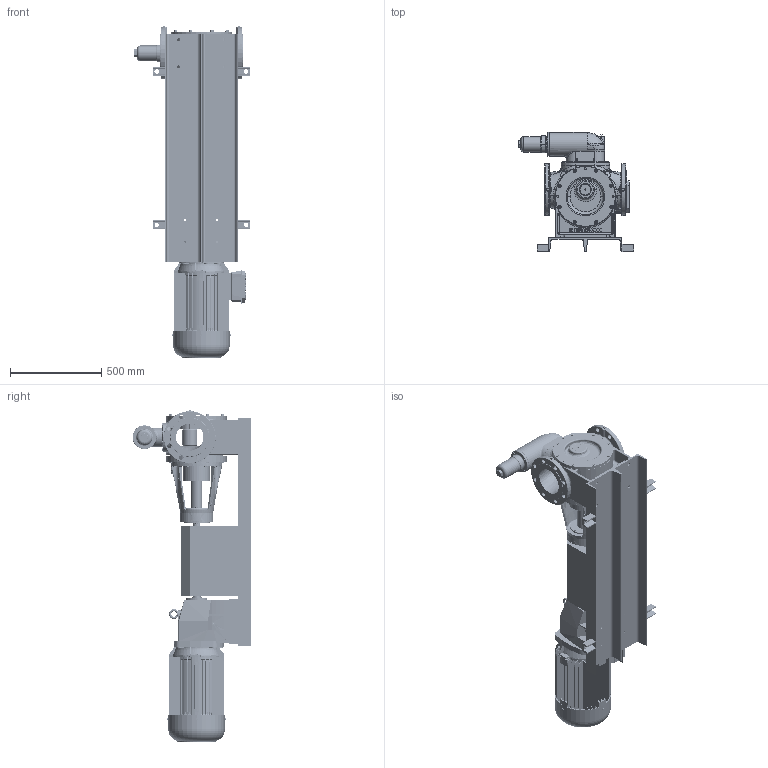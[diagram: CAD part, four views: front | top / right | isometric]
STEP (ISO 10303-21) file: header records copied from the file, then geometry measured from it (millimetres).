
FILE_DESCRIPTION((''),'2;1');
FILE_NAME('PD151EM-USA-KA402609_ASM','2020-06-01T',('heqi'),(''),'PRO/ENGINEER BY PARAMETRIC TECHNOLOGY CORPORATION, 2017170','PRO/ENGINEER BY PARAMETRIC TECHNOLOGY CORPORATION, 2017170','');
FILE_SCHEMA(('CONFIG_CONTROL_DESIGN'));
Products named in the file (58): 1151-001AM225_1; 0030-275BA904_1; 0031-265AA904_1; 700305_1; 700311_1; 704059_1; 1151-001XA060_ASM_1_ASM; 1151-002AA225_1; 1151-021BB017_1; 1151-002XA037_ASM_1_ASM; 1151-003EX116_1; 0012-068BC116_1; 3008-130KA080_1; 760279_1; 700312_1; 1151-003XA153_ASM_1_ASM; 1151-020DA129_1; 701036_1; 701047_1; 700186_1; 700926_1; 1151-004XA001_ASM_1_ASM; 0007-065BA768_1; 1151-007XA007_ASM_1_ASM; 0010-140AA215_1; 0012-110YA215_1; 700306_1; MANIFOLD_SOLID_BREP_140635; MANIFOLD_SOLID_BREP_140720; MANIFOLD_SOLID_BREP_140805; MANIFOLD_SOLID_BREP_140890; MANIFOLD_SOLID_BREP_142203; MANIFOLD_SOLID_BREP_143222; MANIFOLD_SOLID_BREP_143307; MANIFOLD_SOLID_BREP_143392; MANIFOLD_SOLID_BREP_143477; MANIFOLD_SOLID_BREP_143562; 706804_1_ASM; 1151-010XA001_ASM_1_ASM; 0051-070AA225_1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
Assembly tree (103 placements, depth 4):
  PD151EM-USA-KA402609_ASM
    1151-001XA060_ASM_1_ASM
      1151-001AM225_1
      0030-275BA904_1  x2
      0031-265AA904_1
      700305_1  x12
      700311_1  x8
      704059_1  x2
    1151-002XA037_ASM_1_ASM
      1151-002AA225_1
      1151-021BB017_1
    1151-003XA153_ASM_1_ASM
      1151-003EX116_1
      0012-068BC116_1
      3008-130KA080_1  x2
      760279_1  x2
      700312_1  x8
    1151-004XA001_ASM_1_ASM
      1151-020DA129_1
      701036_1
      701047_1
      700186_1
      700926_1
    1151-007XA007_ASM_1_ASM
      0007-065BA768_1
    1151-010XA001_ASM_1_ASM
      0010-140AA215_1
      0012-110YA215_1  x2
      700306_1  x4
      706804_1_ASM
        MANIFOLD_SOLID_BREP_140635
        MANIFOLD_SOLID_BREP_140720
        MANIFOLD_SOLID_BREP_140805
        MANIFOLD_SOLID_BREP_140890
        MANIFOLD_SOLID_BREP_142203
        MANIFOLD_SOLID_BREP_143222
        MANIFOLD_SOLID_BREP_143307
        MANIFOLD_SOLID_BREP_143392
        MANIFOLD_SOLID_BREP_143477
        MANIFOLD_SOLID_BREP_143562
      700312_1  x8
    8313_BYPASS_HD126_151_ASM_1_ASM
      0051-070AA225_1
      1080-042AA215_1
      0045-070AB020_1  x2
      0049-130AA225_1
      1126-043AA070_1
      700299_1  x4
      704059_1
      3127-000DA225_1
      1080-046AA020_1
      1200-037AA215_1
    KA402609_1
    3D_SK42-160LP_ASM_1_ASM
      1-1251_ASM_1_ASM
        1-1275_1
        2_1
        3_1
        4_1
        5_1
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Bounding box: 633 x 650.5 x 1817.7 mm (x, y, z)
Volume: 91902750 mm3; surface area: 6989076.2 mm2
Topology: 93 solids, 101 shells, 4901 faces, 13106 edges, 8439 vertices
Faces by surface type: plane 2099, cylinder 1280, cone 848, bspline 409, torus 215, sphere 42, extrusion 8
Entity records: 185360 total; most frequent: CARTESIAN_POINT 84297, ORIENTED_EDGE 21824, DIRECTION 19813, EDGE_CURVE 10912, AXIS2_PLACEMENT_3D 7300, VERTEX_POINT 7131, VECTOR 5213, LINE 5205
